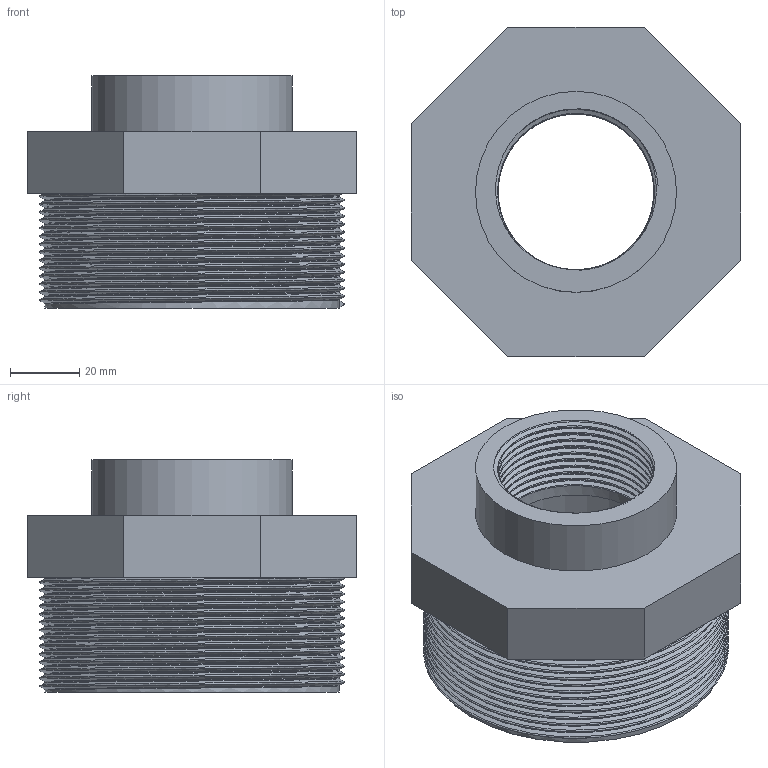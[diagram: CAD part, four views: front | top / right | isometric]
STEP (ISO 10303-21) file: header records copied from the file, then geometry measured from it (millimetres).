
FILE_DESCRIPTION(/* description */ (''),/* implementation_level */ '2;1');
FILE_NAME(/* name */ 'C:\Users\POLYPIPE\Desktop\DATASET INVENTOR\LIBRERIA EFFAST\RACCORDI 3DxWEB\RER\3D_RERRIE\3D_RERRIE090F.stp',/* time_stamp */ '2018-01-19T17:13:16+01:00',/* author */ ('POLYPIPE'),/* organization */ ('Polypipe Italia'),/* preprocessor_version */ 'ST-DEVELOPER v16.1',/* originating_system */ 'Autodesk Inventor 2016',/* authorisation */ '');
FILE_SCHEMA (('CONFIG_CONTROL_DESIGN'));
Length unit declared in the file: millimetre
Products named in the file (1): 3D_RERRIE090F
Bounding box: 95 x 95 x 67 mm (x, y, z)
Volume: 152647.9 mm3; surface area: 50704.5 mm2
Topology: 1 solids, 1 shells, 29 faces, 68 edges, 44 vertices
Faces by surface type: plane 15, bspline 10, cylinder 4
Full cylindrical faces by diameter (mm): 44.945 x1, 58 x1, 73.2 x1, 84.926 x1
Entity records: 10017 total; most frequent: CARTESIAN_POINT 9402, ORIENTED_EDGE 128, DIRECTION 94, EDGE_CURVE 64, VERTEX_POINT 43, EDGE_LOOP 37, AXIS2_PLACEMENT_3D 32, LINE 30
